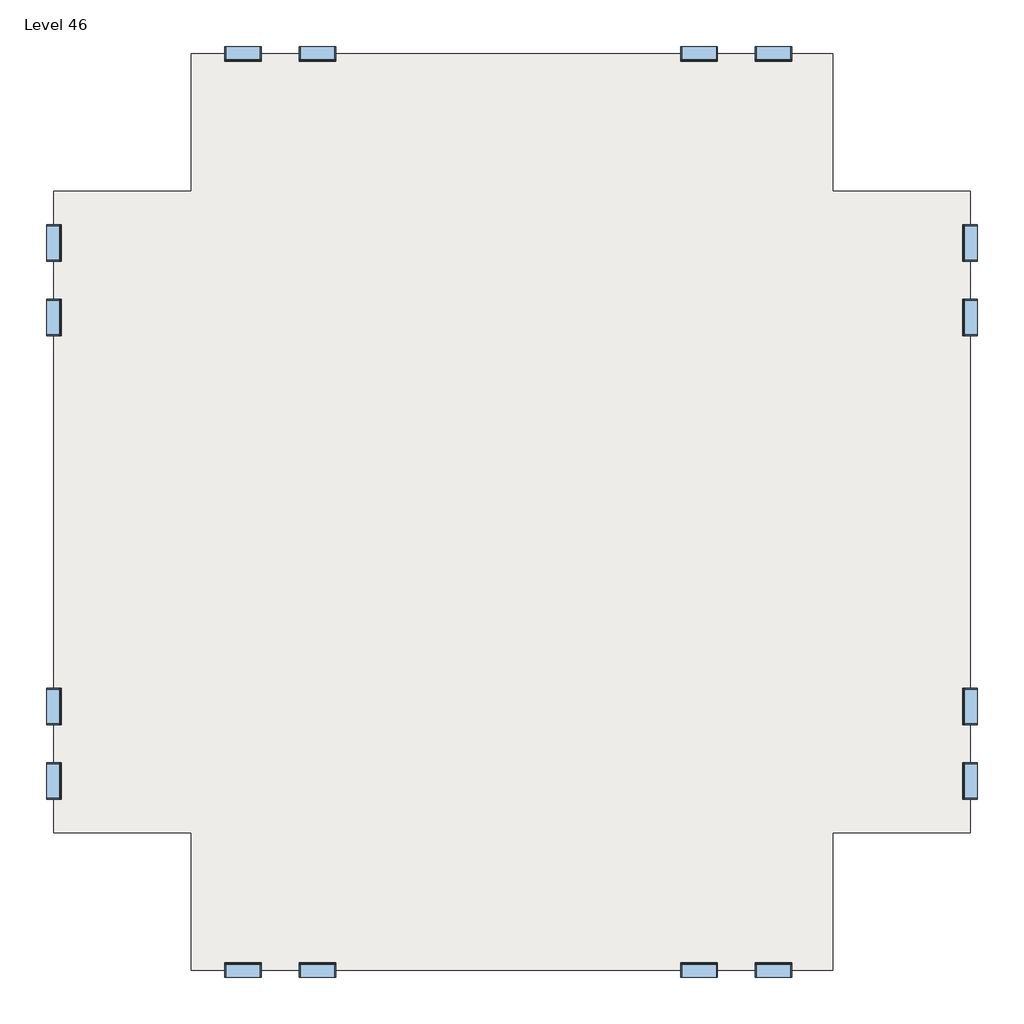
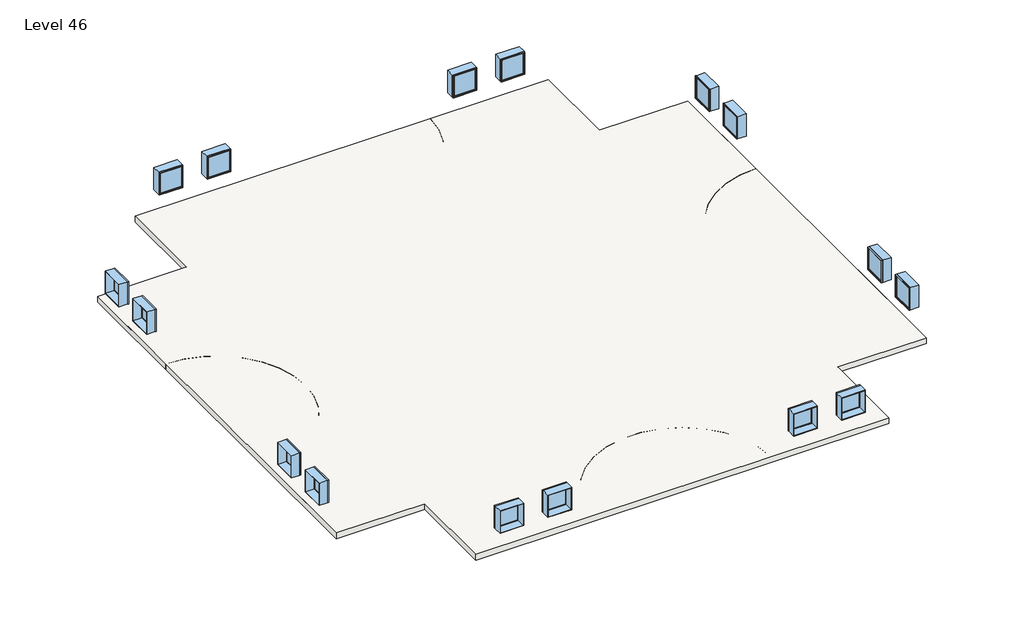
# One storey: 16 windows, 3 slabs.
"""IFC4 building model written with IfcOpenShell, lengths in millimetres."""

import ifcopenshell
import ifcopenshell.guid

model = None  # the IFC model being written
_history = None  # IfcOwnerHistory: only IFC2X3 demands one
_inside = {}  # id of a spatial element -> (the spatial element, [elements in it])
_under = {}  # id of a project, library or spatial element -> (it, [spatial elements below it])
_declared = {}  # id of a project -> (the project, [libraries it declares])
_typed = {}  # id of a type object -> (the type object, [elements of that type])
_made_of = {}  # id of a material, layer set ... -> (it, [elements and type objects made of it])


def new_model(schema):
    """Start an empty IFC model of exactly this schema.

    Asked for "IFC4X3", IfcOpenShell would pick the latest addendum, in which some entities
    have other attributes; the version numbers below select the first issue.
    IFC2X3 requires an IfcOwnerHistory on every rooted entity: one is made here for all.
    """
    global model, _history
    if schema == "IFC4X3":
        model = ifcopenshell.file(schema_version=(4, 3, 0, 0))
    else:
        model = ifcopenshell.file(schema=schema)
    _inside.clear()
    _under.clear()
    _declared.clear()
    _typed.clear()
    _made_of.clear()
    _history = None
    if model.schema == "IFC2X3":
        org = make("IfcOrganization", Name="unknown")
        user = make(
            "IfcPersonAndOrganization",
            ThePerson=make("IfcPerson", FamilyName="unknown"),
            TheOrganization=org,
        )
        app = make(
            "IfcApplication",
            ApplicationDeveloper=org,
            Version="unknown",
            ApplicationFullName="unknown",
            ApplicationIdentifier="unknown",
        )
        _history = make(
            "IfcOwnerHistory",
            OwningUser=user,
            OwningApplication=app,
            ChangeAction="ADDED",
            CreationDate=0,
        )
    return model


def make(cls, **values):
    """One entity of the class cls with the attributes given. An attribute that is None is left unset."""
    return model.create_entity(
        cls, **{name: value for name, value in values.items() if value is not None}
    )


def rooted(cls, **values):
    """An entity with a GlobalId (a new one), such as an element, a storey or a relation."""
    return make(cls, GlobalId=ifcopenshell.guid.new(), OwnerHistory=_history, **values)


def si_unit(unit_type, name, prefix=None):
    """IfcSIUnit, for example si_unit("LENGTHUNIT", "METRE", prefix="MILLI")."""
    return make("IfcSIUnit", UnitType=unit_type, Prefix=prefix, Name=name)


def assignment(units):
    """IfcUnitAssignment: the units of a project."""
    return None if units is None else make("IfcUnitAssignment", Units=units)


def point(xyz):
    """IfcCartesianPoint."""
    return None if xyz is None else make("IfcCartesianPoint", Coordinates=xyz)


def direction(xyz):
    """IfcDirection."""
    return None if xyz is None else make("IfcDirection", DirectionRatios=xyz)


def frame(location, z_axis=None, x_axis=None):
    """IfcAxis2Placement3D, a coordinate frame: its origin and axes. An axis left out is left unset."""
    return make(
        "IfcAxis2Placement3D",
        Location=point(location),
        Axis=direction(z_axis),
        RefDirection=direction(x_axis),
    )


def frame_2d(location, x_axis=None):
    """IfcAxis2Placement2D, a coordinate frame in the plane: its origin and x axis."""
    return make(
        "IfcAxis2Placement2D", Location=point(location), RefDirection=direction(x_axis)
    )


def origin():
    """The frame at (0, 0, 0) with its axes left unset."""
    return frame((0.0, 0.0, 0.0))


def place(relative_to, where):
    """IfcLocalPlacement: puts the frame where relative to a parent placement (None: the world)."""
    return make(
        "IfcLocalPlacement", PlacementRelTo=relative_to, RelativePlacement=where
    )


def context(
    kind, dimensions, precision=None, world=None, true_north=None, identifier=None
):
    """IfcGeometricRepresentationContext, for example the 3D "Model" context."""
    return make(
        "IfcGeometricRepresentationContext",
        ContextIdentifier=identifier,
        ContextType=kind,
        CoordinateSpaceDimension=dimensions,
        Precision=precision,
        WorldCoordinateSystem=world,
        TrueNorth=true_north,
    )


def project(units=None, contexts=None):
    """IfcProject with its units and contexts."""
    return rooted(
        "IfcProject",
        Name="project",
        RepresentationContexts=contexts,
        UnitsInContext=assignment(units),
    )


def spatial(cls, under=None, at=None, **own):
    """A site, building, storey or space (cls), placed at a placement, below another one or the project."""
    s = rooted(cls, ObjectPlacement=at, **own)
    if under is not None:
        _under.setdefault(under.id(), (under, []))[1].append(s)
    return s


def polyline(points):
    """IfcPolyline through the points."""
    return make("IfcPolyline", Points=[point(p) for p in points])


def circle_curve(where, radius):
    """IfcCircle in the frame where."""
    return make("IfcCircle", Position=where, Radius=radius)


def trimmed(basis, trim1, trim2, sense, master):
    """IfcTrimmedCurve: the piece of a basis curve between two trims."""
    return make(
        "IfcTrimmedCurve",
        BasisCurve=basis,
        Trim1=trim1,
        Trim2=trim2,
        SenseAgreement=sense,
        MasterRepresentation=master,
    )


def segment(curve, same_sense, transition):
    """IfcCompositeCurveSegment."""
    return make(
        "IfcCompositeCurveSegment",
        Transition=transition,
        SameSense=same_sense,
        ParentCurve=curve,
    )


def composite_curve(segments, self_intersect=None):
    """IfcCompositeCurve: segments joined end to end."""
    return make("IfcCompositeCurve", Segments=segments, SelfIntersect=self_intersect)


def outline(outer, holes=None, kind="AREA"):
    """IfcArbitraryClosedProfileDef: a profile drawn as a closed curve; with holes, ...WithVoids."""
    if holes is None:
        return make("IfcArbitraryClosedProfileDef", ProfileType=kind, OuterCurve=outer)
    return make(
        "IfcArbitraryProfileDefWithVoids",
        ProfileType=kind,
        OuterCurve=outer,
        InnerCurves=holes,
    )


def extrude(swept, where, along, depth):
    """IfcExtrudedAreaSolid: the profile swept, set in the frame where, extruded along a direction by depth."""
    return make(
        "IfcExtrudedAreaSolid",
        SweptArea=swept,
        Position=where,
        ExtrudedDirection=direction(along),
        Depth=depth,
    )


def shape(context_of_items, identifier, shape_type, items):
    """IfcShapeRepresentation: the items that make up one representation, for example the "Body"."""
    return make(
        "IfcShapeRepresentation",
        ContextOfItems=context_of_items,
        RepresentationIdentifier=identifier,
        RepresentationType=shape_type,
        Items=items,
    )


def source(mapping_origin, context_of_items, identifier, shape_type, items):
    """IfcRepresentationMap: a shape defined once, which mapped items show again and again."""
    return make(
        "IfcRepresentationMap",
        MappingOrigin=mapping_origin,
        MappedRepresentation=shape(context_of_items, identifier, shape_type, items),
    )


def transform(
    local_origin,
    x_axis=None,
    y_axis=None,
    z_axis=None,
    scale=None,
    scale2=None,
    scale3=None,
    uniform=True,
):
    """IfcCartesianTransformationOperator3D, or its non-uniform kind. x_axis, y_axis, z_axis: its Axis1, 2, 3."""
    if uniform:
        return make(
            "IfcCartesianTransformationOperator3D",
            Axis1=direction(x_axis),
            Axis2=direction(y_axis),
            LocalOrigin=point(local_origin),
            Scale=scale,
            Axis3=direction(z_axis),
        )
    return make(
        "IfcCartesianTransformationOperator3DnonUniform",
        Axis1=direction(x_axis),
        Axis2=direction(y_axis),
        LocalOrigin=point(local_origin),
        Scale=scale,
        Axis3=direction(z_axis),
        Scale2=scale2,
        Scale3=scale3,
    )


def mapped(mapping_source, mapping_target):
    """IfcMappedItem: shows the shape of a source again, moved by a transform."""
    return make(
        "IfcMappedItem", MappingSource=mapping_source, MappingTarget=mapping_target
    )


def made_of(thing, what):
    """Note that an element or type object is made of a material, layer set ...; save() writes the relation."""
    if what is not None:
        _made_of.setdefault(what.id(), (what, []))[1].append(thing)
    return thing


def element(
    cls,
    number,
    at=None,
    inside=None,
    cuts=None,
    type_object=None,
    material=None,
    context=None,
    identifier="Body",
    shape_type=None,
    held_by="IfcProductDefinitionShape",
    body=None,
    shapes=None,
    **own,
):
    """One element of the class cls, such as IfcWall. Its Tag is "e" and its number.

    at: its placement. inside: the storey or other place that contains it. cuts: it is an
    opening in that element (IfcRelVoidsElement). A single representation is given by context,
    identifier, shape_type and body (its items); several are given by shapes. held_by: the class
    of the entity that holds the representations. save() writes the other relations.
    """
    e = rooted(cls, Tag="e%d" % number, ObjectPlacement=at, **own)
    if body is not None:
        shapes = [shape(context, identifier, shape_type, body)]
    if shapes is not None:
        e.Representation = make(held_by, Representations=shapes)
    if inside is not None:
        _inside.setdefault(inside.id(), (inside, []))[1].append(e)
    if cuts is not None:
        rooted(
            "IfcRelVoidsElement", RelatingBuildingElement=cuts, RelatedOpeningElement=e
        )
    if type_object is not None:
        _typed.setdefault(type_object.id(), (type_object, []))[1].append(e)
    return made_of(e, material)


def aggregate(whole, parts):
    """IfcRelAggregates: a whole, such as a stair, and the parts it consists of."""
    return rooted("IfcRelAggregates", RelatingObject=whole, RelatedObjects=parts)


def save(model, path):
    """Write the relations noted so far, then the file.

    IfcRelAggregates (storeys below a building ...), IfcRelContainedInSpatialStructure (elements
    in a storey), IfcRelDefinesByType, IfcRelAssociatesMaterial and IfcRelDeclares: one each for
    every whole, place, type object, material and project.
    """
    for whole, parts in _under.values():
        aggregate(whole, parts)
    for where, things in _inside.values():
        rooted(
            "IfcRelContainedInSpatialStructure",
            RelatedElements=things,
            RelatingStructure=where,
        )
    for kind, things in _typed.values():
        rooted("IfcRelDefinesByType", RelatedObjects=things, RelatingType=kind)
    for what, things in _made_of.values():
        rooted("IfcRelAssociatesMaterial", RelatedObjects=things, RelatingMaterial=what)
    for by, libraries in _declared.values():
        rooted("IfcRelDeclares", RelatingContext=by, RelatedDefinitions=libraries)
    model.write(path)


def window_d0035ecf(model_context):
    return source(origin(), model_context, "Body", "SweptSolid", [
        extrude(outline(polyline([(508.0, 200.025), (-584.2, 200.025), (-584.2, 212.725), (508.0, 212.725), (508.0, 200.025)])), frame((0.0, 0.0, 977.9), z_axis=(0.0, 0.0, 1.0), x_axis=(1.0, 0.0, 0.0)), (0.0, 0.0, 1.0), 1092.2),
        extrude(outline(polyline([(2114.55, -628.65), (933.45, -628.65), (933.45, 552.45), (2114.55, 552.45), (2114.55, -628.65)]), holes=[polyline([(2070.1, -584.2), (2070.1, 508.0), (977.9, 508.0), (977.9, -584.2), (2070.1, -584.2)])]), frame((0.0, 184.15, 0.0), z_axis=(0.0, 1.0, 0.0), x_axis=(0.0, 0.0, 1.0)), (0.0, 0.0, 1.0), 44.45),
        extrude(outline(polyline([(2133.6, -647.7), (914.4, -647.7), (914.4, 571.5), (2133.6, 571.5), (2133.6, -647.7)]), holes=[polyline([(2101.85, -615.95), (2101.85, 539.75), (946.15, 539.75), (946.15, -615.95), (2101.85, -615.95)])]), frame((0.0, -247.65, 0.0), z_axis=(0.0, 1.0, 0.0), x_axis=(0.0, 0.0, 1.0)), (0.0, 0.0, 1.0), 431.8),
        extrude(outline(polyline([(2133.6, 571.5), (2133.6, -647.7), (914.4, -647.7), (914.4, 571.5), (2133.6, 571.5)]), holes=[polyline([(2114.55, 552.45), (933.45, 552.45), (933.45, -628.65), (2114.55, -628.65), (2114.55, 552.45)])]), frame((0.0, 184.15, 0.0), z_axis=(0.0, 1.0, 0.0), x_axis=(0.0, 0.0, 1.0)), (0.0, 0.0, 1.0), 63.5),
    ])


def window_d434eb62(model_context):
    return source(origin(), model_context, "Body", "SweptSolid", [
        extrude(outline(polyline([(508.0, -200.025), (508.0, -212.725), (-584.2, -212.725), (-584.2, -200.025), (508.0, -200.025)])), frame((0.0, 0.0, 977.9), z_axis=(0.0, 0.0, 1.0), x_axis=(1.0, 0.0, 0.0)), (0.0, 0.0, 1.0), 1092.2),
        extrude(outline(polyline([(2114.55, -628.65), (933.45, -628.65), (933.45, 552.45), (2114.55, 552.45), (2114.55, -628.65)]), holes=[polyline([(2070.1, -584.2), (2070.1, 508.0), (977.9, 508.0), (977.9, -584.2), (2070.1, -584.2)])]), frame((0.0, -228.6, 0.0), z_axis=(0.0, 1.0, 0.0), x_axis=(0.0, 0.0, 1.0)), (0.0, 0.0, 1.0), 44.45),
        extrude(outline(polyline([(2133.6, -647.7), (914.4, -647.7), (914.4, 571.5), (2133.6, 571.5), (2133.6, -647.7)]), holes=[polyline([(2101.85, -615.95), (2101.85, 539.75), (946.15, 539.75), (946.15, -615.95), (2101.85, -615.95)])]), frame((0.0, -184.15, 0.0), z_axis=(0.0, 1.0, 0.0), x_axis=(0.0, 0.0, 1.0)), (0.0, 0.0, 1.0), 431.8),
        extrude(outline(polyline([(2133.6, 571.5), (2133.6, -647.7), (914.4, -647.7), (914.4, 571.5), (2133.6, 571.5)]), holes=[polyline([(2114.55, 552.45), (933.45, 552.45), (933.45, -628.65), (2114.55, -628.65), (2114.55, 552.45)])]), frame((0.0, -247.65, 0.0), z_axis=(0.0, 1.0, 0.0), x_axis=(0.0, 0.0, 1.0)), (0.0, 0.0, 1.0), 63.5),
    ])


model = new_model("IFC4")

# Units and contexts
model_context = context("Model", 3, world=origin())
ifc_project = project(units=[si_unit("LENGTHUNIT", "METRE", prefix="MILLI")], contexts=[model_context])

# Site, building, storey
site = spatial("IfcSite", under=ifc_project)
building = spatial("IfcBuilding", under=site)
storey = spatial("IfcBuildingStorey", under=building, Name="Level 46", Elevation=137160.0)

# Slabs
placement = place(None, origin())
element("IfcSlab", 1, ObjectType="Generic - 12\"", at=placement, inside=storey, context=model_context, shape_type="SweptSolid", body=[
    extrude(outline(polyline([(-7150.3629456, 4479.6634547), (-7150.3629456, 9051.6634547), (14185.6370544, 9051.6634547), (14185.6370544, 4479.6634547), (18757.6370544, 4479.6634547), (18757.6370544, -16856.3365453), (14185.6370544, -16856.3365453), (14185.6370544, -21428.3365453), (-7150.3629456, -21428.3365453), (-7150.3629456, -16856.3365453), (-11722.3629456, -16856.3365453), (-11722.3629456, 4479.6634547), (-7150.3629456, 4479.6634547)])), frame((0.0, 0.0, 136855.2), z_axis=(0.0, 0.0, 1.0), x_axis=(1.0, 0.0, 0.0)), (0.0, 0.0, 1.0), 304.8),
])
element("IfcSlab", 2, ObjectType="Generic - 12\"", at=placement, inside=storey, context=model_context, shape_type="SweptSolid", body=[
    extrude(outline(polyline([(-7150.3629456, 4479.6634547), (-7150.3629456, 9051.6634547), (14185.6370544, 9051.6634547), (14185.6370544, 4479.6634547), (18757.6370544, 4479.6634547), (18757.6370544, -16856.3365453), (14185.6370544, -16856.3365453), (14185.6370544, -21428.3365453), (-7150.3629456, -21428.3365453), (-7150.3629456, -16856.3365453), (-11722.3629456, -16856.3365453), (-11722.3629456, 4479.6634547), (-7150.3629456, 4479.6634547)])), frame((0.0, 0.0, 136855.2), z_axis=(0.0, 0.0, 1.0), x_axis=(1.0, 0.0, 0.0)), (0.0, 0.0, 1.0), 304.8),
])
element("IfcSlab", 3, ObjectType="Generic - 12\"", at=placement, inside=storey, context=model_context, shape_type="SweptSolid", body=[
    extrude(outline(composite_curve([segment(polyline([(-7150.3629456, 4479.6634547), (-7150.3629456, 9051.6634547), (-1054.3629456, 9051.6634547)]), True, "CONTINUOUS"), segment(trimmed(circle_curve(frame_2d((3517.6370544, 9051.6634547)), 4572.0), [point((-1054.3629456, 9051.6634547))], [point((8089.6370544, 9051.6634547))], True, "CARTESIAN"), True, "CONTINUOUS"), segment(polyline([(8089.6370544, 9051.6634547), (14185.6370544, 9051.6634547), (14185.6370544, 4479.6634547), (18757.6370544, 4479.6634547), (18757.6370544, -1616.3365453)]), True, "CONTINUOUS"), segment(trimmed(circle_curve(frame_2d((18757.6370544, -6188.3365453)), 4572.0), [point((18757.6370544, -1616.3365453))], [point((18757.6370544, -10760.3365453))], True, "CARTESIAN"), True, "CONTINUOUS"), segment(polyline([(18757.6370544, -10760.3365453), (18757.6370544, -16856.3365453), (14185.6370544, -16856.3365453), (14185.6370544, -21428.3365453), (8089.6370544, -21428.3365453)]), True, "CONTINUOUS"), segment(trimmed(circle_curve(frame_2d((3517.6370544, -21428.3365453)), 4572.0), [point((8089.6370544, -21428.3365453))], [point((-1054.3629456, -21428.3365453))], True, "CARTESIAN"), True, "CONTINUOUS"), segment(polyline([(-1054.3629456, -21428.3365453), (-7150.3629456, -21428.3365453), (-7150.3629456, -16856.3365453), (-11722.3629456, -16856.3365453), (-11722.3629456, -10760.3365453)]), True, "CONTINUOUS"), segment(trimmed(circle_curve(frame_2d((-11722.3629456, -6188.3365453)), 4572.0), [point((-11722.3629456, -10760.3365453))], [point((-11722.3629456, -1616.3365453))], True, "CARTESIAN"), True, "CONTINUOUS"), segment(polyline([(-11722.3629456, -1616.3365453), (-11722.3629456, 4479.6634547), (-7150.3629456, 4479.6634547)]), True, "CONTINUOUS")], self_intersect=False)), frame((0.0, 0.0, 136855.2), z_axis=(0.0, 0.0, 1.0), x_axis=(1.0, 0.0, 0.0)), (0.0, 0.0, 1.0), 304.8),
])

# Windows
window_shape = window_d0035ecf(model_context)
element("IfcWindow", 4, ObjectType="Fixed : 48\" x 48\"", at=placement, inside=storey, context=model_context, shape_type="MappedRepresentation", body=[
    mapped(window_shape, transform((-11719.1879456, 247.3884547, 137160.0), x_axis=(0.0, -1.0, 0.0), y_axis=(1.0, 0.0, 0.0), z_axis=(0.0, 0.0, 1.0))),
])
element("IfcWindow", 5, ObjectType="Fixed : 48\" x 48\"", at=placement, inside=storey, context=model_context, shape_type="MappedRepresentation", body=[
    mapped(window_shape, transform((-5469.1993281, 9048.4884547, 137160.0), x_axis=(-1.0, 0.0, 0.0), y_axis=(0.0, -1.0, 0.0), z_axis=(0.0, 0.0, 1.0))),
])
element("IfcWindow", 6, ObjectType="Fixed : 48\" x 48\"", at=placement, inside=storey, context=model_context, shape_type="MappedRepresentation", body=[
    mapped(window_shape, transform((-11719.1879456, -15175.1729277, 137160.0), x_axis=(0.0, -1.0, 0.0), y_axis=(1.0, 0.0, 0.0), z_axis=(0.0, 0.0, 1.0))),
])
element("IfcWindow", 7, ObjectType="Fixed : 48\" x 48\"", at=placement, inside=storey, context=model_context, shape_type="MappedRepresentation", body=[
    mapped(window_shape, transform((-2918.0879456, -21425.1615453, 137160.0), x_axis=(1.0, 0.0, 0.0), y_axis=(0.0, 1.0, 0.0), z_axis=(0.0, 0.0, 1.0))),
])
element("IfcWindow", 8, ObjectType="Fixed : 48\" x 48\"", at=placement, inside=storey, context=model_context, shape_type="MappedRepresentation", body=[
    mapped(window_shape, transform((18754.4620544, 2798.4998372, 137160.0), x_axis=(0.0, 1.0, 0.0), y_axis=(-1.0, 0.0, 0.0), z_axis=(0.0, 0.0, 1.0))),
])
element("IfcWindow", 9, ObjectType="Fixed : 48\" x 48\"", at=placement, inside=storey, context=model_context, shape_type="MappedRepresentation", body=[
    mapped(window_shape, transform((9705.7120544, 9048.4884547, 137160.0), x_axis=(-1.0, 0.0, 0.0), y_axis=(0.0, -1.0, 0.0), z_axis=(0.0, 0.0, 1.0))),
])
element("IfcWindow", 10, ObjectType="Fixed : 48\" x 48\"", at=placement, inside=storey, context=model_context, shape_type="MappedRepresentation", body=[
    mapped(window_shape, transform((18754.4620544, -12624.0615453, 137160.0), x_axis=(0.0, 1.0, 0.0), y_axis=(-1.0, 0.0, 0.0), z_axis=(0.0, 0.0, 1.0))),
])
element("IfcWindow", 11, ObjectType="Fixed : 48\" x 48\"", at=placement, inside=storey, context=model_context, shape_type="MappedRepresentation", body=[
    mapped(window_shape, transform((12256.8234368, -21425.1615453, 137160.0), x_axis=(1.0, 0.0, 0.0), y_axis=(0.0, 1.0, 0.0), z_axis=(0.0, 0.0, 1.0))),
])
window_2_shape = window_d434eb62(model_context)
element("IfcWindow", 12, ObjectType="Fixed : 48\" x 48\"", at=placement, inside=storey, context=model_context, shape_type="MappedRepresentation", body=[
    mapped(window_2_shape, transform((-11719.1879456, 2798.4998372, 137160.0), x_axis=(0.0, 1.0, 0.0), y_axis=(-1.0, 0.0, 0.0), z_axis=(0.0, 0.0, 1.0))),
])
element("IfcWindow", 13, ObjectType="Fixed : 48\" x 48\"", at=placement, inside=storey, context=model_context, shape_type="MappedRepresentation", body=[
    mapped(window_2_shape, transform((-2918.0879456, 9048.4884547, 137160.0), x_axis=(1.0, 0.0, 0.0), y_axis=(0.0, 1.0, 0.0), z_axis=(0.0, 0.0, 1.0))),
])
element("IfcWindow", 14, ObjectType="Fixed : 48\" x 48\"", at=placement, inside=storey, context=model_context, shape_type="MappedRepresentation", body=[
    mapped(window_2_shape, transform((-11719.1879456, -12624.0615453, 137160.0), x_axis=(0.0, 1.0, 0.0), y_axis=(-1.0, 0.0, 0.0), z_axis=(0.0, 0.0, 1.0))),
])
element("IfcWindow", 15, ObjectType="Fixed : 48\" x 48\"", at=placement, inside=storey, context=model_context, shape_type="MappedRepresentation", body=[
    mapped(window_2_shape, transform((-5469.1993281, -21425.1615453, 137160.0), x_axis=(-1.0, 0.0, 0.0), y_axis=(0.0, -1.0, 0.0), z_axis=(0.0, 0.0, 1.0))),
])
element("IfcWindow", 16, ObjectType="Fixed : 48\" x 48\"", at=placement, inside=storey, context=model_context, shape_type="MappedRepresentation", body=[
    mapped(window_2_shape, transform((18754.4620544, 247.3884547, 137160.0), x_axis=(0.0, -1.0, 0.0), y_axis=(1.0, 0.0, 0.0), z_axis=(0.0, 0.0, 1.0))),
])
element("IfcWindow", 17, ObjectType="Fixed : 48\" x 48\"", at=placement, inside=storey, context=model_context, shape_type="MappedRepresentation", body=[
    mapped(window_2_shape, transform((12256.8234368, 9048.4884547, 137160.0), x_axis=(1.0, 0.0, 0.0), y_axis=(0.0, 1.0, 0.0), z_axis=(0.0, 0.0, 1.0))),
])
element("IfcWindow", 18, ObjectType="Fixed : 48\" x 48\"", at=placement, inside=storey, context=model_context, shape_type="MappedRepresentation", body=[
    mapped(window_2_shape, transform((18754.4620544, -15175.1729277, 137160.0), x_axis=(0.0, -1.0, 0.0), y_axis=(1.0, 0.0, 0.0), z_axis=(0.0, 0.0, 1.0))),
])
element("IfcWindow", 19, ObjectType="Fixed : 48\" x 48\"", at=placement, inside=storey, context=model_context, shape_type="MappedRepresentation", body=[
    mapped(window_2_shape, transform((9705.7120544, -21425.1615453, 137160.0), x_axis=(-1.0, 0.0, 0.0), y_axis=(0.0, -1.0, 0.0), z_axis=(0.0, 0.0, 1.0))),
])

save(model, "model.ifc")
